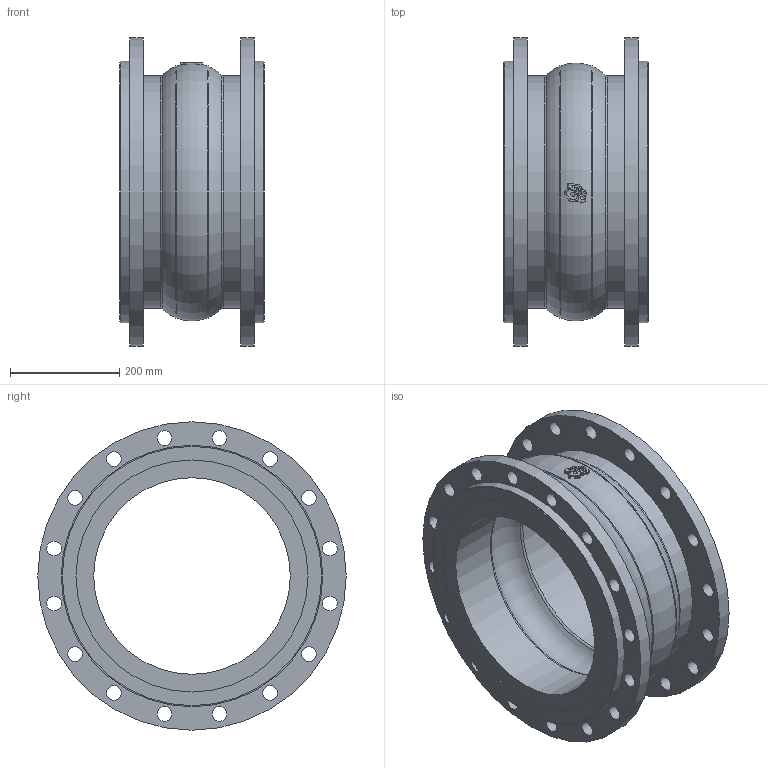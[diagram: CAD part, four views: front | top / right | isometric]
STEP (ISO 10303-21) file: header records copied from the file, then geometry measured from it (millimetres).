
FILE_DESCRIPTION(('STEP AP203'), '1');
FILE_NAME('3D_500-400-EPDM-FF', '', ('UNSPECIFIED'), ('UNSPECIFIED'), 'C3D Converter', 'C3D Toolkit', '');
FILE_SCHEMA(('CONFIG_CONTROL_DESIGN'));
Length unit declared in the file: millimetre
Bounding box: 265 x 565 x 565 mm (x, y, z)
Volume: 17875389.1 mm3; surface area: 1295218.7 mm2
Topology: 9 solids, 9 shells, 895 faces, 2627 edges, 1758 vertices
Faces by surface type: plane 839, cylinder 44, torus 12
Full cylindrical faces by diameter (mm): 27 x32, 360 x2, 425 x4, 475 x2, 479 x2, 565 x2
Entity records: 36372 total; most frequent: CARTESIAN_POINT 5225, ORIENTED_EDGE 5142, DIRECTION 4495, EDGE_CURVE 2571, LINE 2439, VECTOR 2439, VERTEX_POINT 1758, EDGE_LOOP 1037
